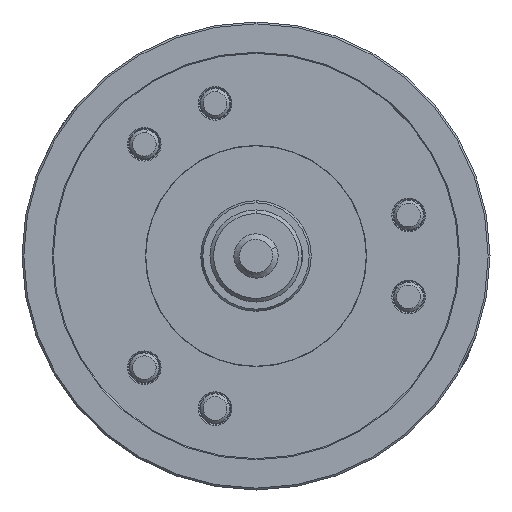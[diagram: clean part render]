
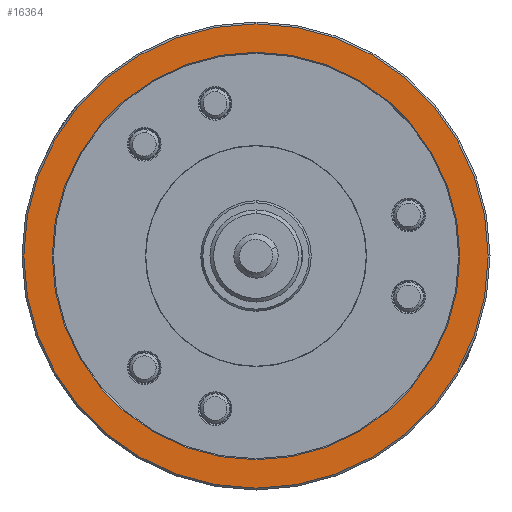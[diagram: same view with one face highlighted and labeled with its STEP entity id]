
A CAD part, left-side view. The second image highlights one B-rep face of the part: STEP entity #16364.
In plain terms, the highlighted planar face has unit normal (-1, 0, 0).
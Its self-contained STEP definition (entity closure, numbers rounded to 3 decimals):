
#444 = CARTESIAN_POINT ( 'NONE',  ( -110., 0., 0. ) ) ;
#2110 = CIRCLE ( 'NONE', #35798, 110.6 ) ;
#3058 = CIRCLE ( 'NONE', #4591, 110.6 ) ;
#3301 = EDGE_CURVE ( 'NONE', #9444, #10063, #2110, .T. ) ;
#3473 = DIRECTION ( 'NONE',  ( 0., 0., -1. ) ) ;
#4591 = AXIS2_PLACEMENT_3D ( 'NONE', #25627, #7658, #28560 ) ;
#4724 = DIRECTION ( 'NONE',  ( 1., 0., 0. ) ) ;
#4809 = CARTESIAN_POINT ( 'NONE',  ( -110., 126., 0. ) ) ;
#5234 = EDGE_LOOP ( 'NONE', ( #32549, #32728 ) ) ;
#5779 = AXIS2_PLACEMENT_3D ( 'NONE', #11870, #32820, #14890 ) ;
#7658 = DIRECTION ( 'NONE',  ( 1., 0., 0. ) ) ;
#7713 = CIRCLE ( 'NONE', #30819, 126. ) ;
#8036 = EDGE_CURVE ( 'NONE', #30157, #34361, #13439, .T. ) ;
#9113 = EDGE_LOOP ( 'NONE', ( #23709, #36216 ) ) ;
#9444 = VERTEX_POINT ( 'NONE', #35473 ) ;
#10063 = VERTEX_POINT ( 'NONE', #22749 ) ;
#11757 = AXIS2_PLACEMENT_3D ( 'NONE', #4809, #13796, #34746 ) ;
#11870 = CARTESIAN_POINT ( 'NONE',  ( -110., 0., 0. ) ) ;
#13439 = CIRCLE ( 'NONE', #5779, 126. ) ;
#13796 = DIRECTION ( 'NONE',  ( -1., 0., 0. ) ) ;
#14890 = DIRECTION ( 'NONE',  ( 0., 0., -1. ) ) ;
#16364 = ADVANCED_FACE ( 'NONE', ( #24190, #23255 ), #22747, .T. ) ;
#21375 = DIRECTION ( 'NONE',  ( 1., 0., 0. ) ) ;
#22667 = CARTESIAN_POINT ( 'NONE',  ( -110., 0., 0. ) ) ;
#22747 = PLANE ( 'NONE',  #11757 ) ;
#22749 = CARTESIAN_POINT ( 'NONE',  ( -110., 0., -110.6 ) ) ;
#23255 = FACE_OUTER_BOUND ( 'NONE', #5234, .T. ) ;
#23709 = ORIENTED_EDGE ( 'NONE', *, *, #3301, .T. ) ;
#24190 = FACE_BOUND ( 'NONE', #9113, .T. ) ;
#25627 = CARTESIAN_POINT ( 'NONE',  ( -110., 0., 0. ) ) ;
#25660 = DIRECTION ( 'NONE',  ( 0., 0., -1. ) ) ;
#28560 = DIRECTION ( 'NONE',  ( 0., 0., -1. ) ) ;
#30157 = VERTEX_POINT ( 'NONE', #33210 ) ;
#30819 = AXIS2_PLACEMENT_3D ( 'NONE', #444, #21375, #3473 ) ;
#31753 = EDGE_CURVE ( 'NONE', #34361, #30157, #7713, .T. ) ;
#32024 = CARTESIAN_POINT ( 'NONE',  ( -110., 0., -126. ) ) ;
#32522 = EDGE_CURVE ( 'NONE', #10063, #9444, #3058, .T. ) ;
#32549 = ORIENTED_EDGE ( 'NONE', *, *, #31753, .F. ) ;
#32728 = ORIENTED_EDGE ( 'NONE', *, *, #8036, .F. ) ;
#32820 = DIRECTION ( 'NONE',  ( 1., 0., 0. ) ) ;
#33210 = CARTESIAN_POINT ( 'NONE',  ( -110., 0., 126. ) ) ;
#34361 = VERTEX_POINT ( 'NONE', #32024 ) ;
#34746 = DIRECTION ( 'NONE',  ( 0., 0., 1. ) ) ;
#35473 = CARTESIAN_POINT ( 'NONE',  ( -110., 0., 110.6 ) ) ;
#35798 = AXIS2_PLACEMENT_3D ( 'NONE', #22667, #4724, #25660 ) ;
#36216 = ORIENTED_EDGE ( 'NONE', *, *, #32522, .T. ) ;
